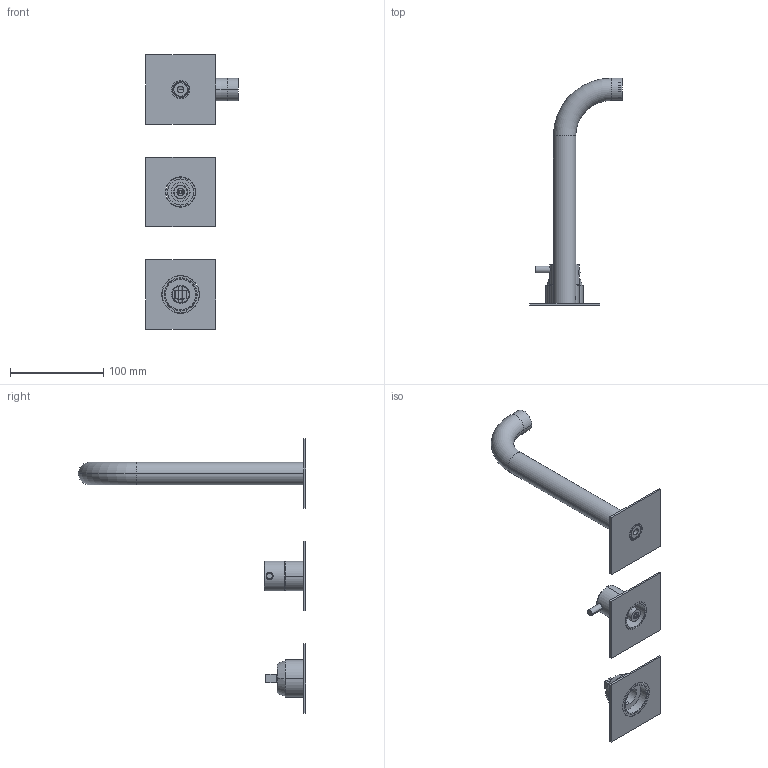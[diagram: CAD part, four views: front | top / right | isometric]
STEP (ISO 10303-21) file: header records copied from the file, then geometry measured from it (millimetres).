
FILE_DESCRIPTION((''),'2;1');
FILE_NAME('12568ASV2_SW0001','2024-12-19T16:16:47',('carloff'),(''),'CREO PARAMETRIC BY PTC INC, 2022014','CREO PARAMETRIC BY PTC INC, 2022014','');
FILE_SCHEMA(('CONFIG_CONTROL_DESIGN'));
Length unit declared in the file: millimetre
Products named in the file (1): 12568ASV2_SW0001
Bounding box: 99.5 x 244 x 295 mm (x, y, z)
Volume: 131792 mm3; surface area: 115094.8 mm2
Topology: 7 solids, 7 shells, 1047 faces, 2905 edges, 1855 vertices
Faces by surface type: cylinder 411, plane 328, cone 133, bspline 93, torus 74, sphere 8
Entity records: 84052 total; most frequent: CARTESIAN_POINT 58482, ORIENTED_EDGE 5766, DIRECTION 4761, EDGE_CURVE 2883, VERTEX_POINT 1855, AXIS2_PLACEMENT_3D 1757, VECTOR 1247, LINE 1247
